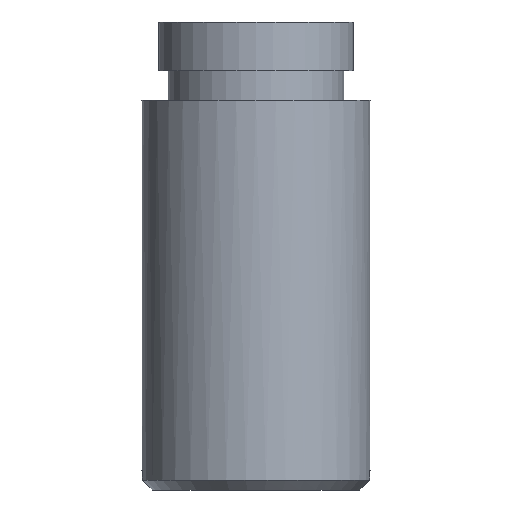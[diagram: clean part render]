
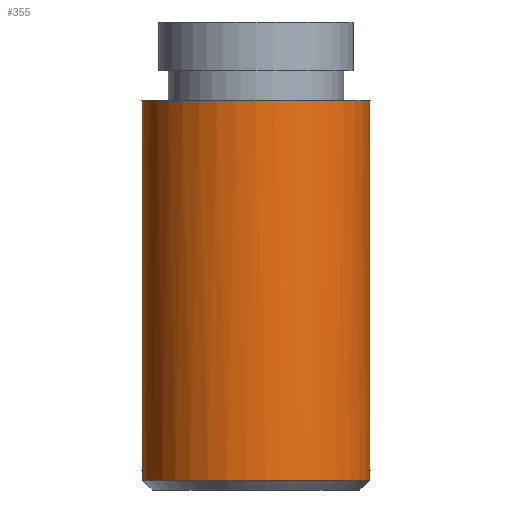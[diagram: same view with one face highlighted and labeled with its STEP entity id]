
A CAD part, left-side view. The second image highlights one B-rep face of the part: STEP entity #355.
In plain terms, the highlighted cylindrical face has radius 5.85 mm (diameter 11.7 mm), a full revolution.
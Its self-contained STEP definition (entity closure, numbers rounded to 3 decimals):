
#19=CYLINDRICAL_SURFACE('',#416,5.85);
#27=CIRCLE('',#386,5.85);
#29=CIRCLE('',#391,5.85);
#31=CIRCLE('',#394,5.85);
#34=CIRCLE('',#398,5.85);
#35=CIRCLE('',#399,5.85);
#45=CIRCLE('',#417,5.85);
#64=FACE_OUTER_BOUND('',#85,.T.);
#85=EDGE_LOOP('',(#305,#306,#307,#308,#309,#310,#311,#312,#313,#314,#315,
#316));
#100=LINE('',#536,#121);
#104=LINE('',#553,#125);
#109=LINE('',#575,#130);
#112=LINE('',#590,#133);
#118=LINE('',#640,#139);
#121=VECTOR('',#429,10.);
#125=VECTOR('',#435,10.);
#130=VECTOR('',#448,10.);
#133=VECTOR('',#453,10.);
#139=VECTOR('',#513,5.85);
#142=VERTEX_POINT('',#534);
#143=VERTEX_POINT('',#535);
#148=VERTEX_POINT('',#551);
#149=VERTEX_POINT('',#552);
#154=VERTEX_POINT('',#568);
#156=VERTEX_POINT('',#574);
#160=VERTEX_POINT('',#588);
#161=VERTEX_POINT('',#589);
#166=VERTEX_POINT('',#612);
#172=VERTEX_POINT('',#639);
#176=EDGE_CURVE('',#142,#143,#100,.T.);
#182=EDGE_CURVE('',#148,#149,#104,.T.);
#188=EDGE_CURVE('',#143,#154,#27,.T.);
#191=EDGE_CURVE('',#154,#156,#109,.T.);
#196=EDGE_CURVE('',#160,#161,#112,.T.);
#202=EDGE_CURVE('',#161,#148,#29,.T.);
#204=EDGE_CURVE('',#160,#156,#31,.T.);
#207=EDGE_CURVE('',#142,#166,#34,.T.);
#208=EDGE_CURVE('',#166,#149,#35,.T.);
#220=EDGE_CURVE('',#166,#172,#118,.T.);
#221=EDGE_CURVE('',#172,#172,#45,.T.);
#305=ORIENTED_EDGE('',*,*,#182,.T.);
#306=ORIENTED_EDGE('',*,*,#208,.F.);
#307=ORIENTED_EDGE('',*,*,#220,.T.);
#308=ORIENTED_EDGE('',*,*,#221,.T.);
#309=ORIENTED_EDGE('',*,*,#220,.F.);
#310=ORIENTED_EDGE('',*,*,#207,.F.);
#311=ORIENTED_EDGE('',*,*,#176,.T.);
#312=ORIENTED_EDGE('',*,*,#188,.T.);
#313=ORIENTED_EDGE('',*,*,#191,.T.);
#314=ORIENTED_EDGE('',*,*,#204,.F.);
#315=ORIENTED_EDGE('',*,*,#196,.T.);
#316=ORIENTED_EDGE('',*,*,#202,.T.);
#355=ADVANCED_FACE('',(#64),#19,.T.);
#386=AXIS2_PLACEMENT_3D('',#569,#441,#442);
#391=AXIS2_PLACEMENT_3D('',#605,#459,#460);
#394=AXIS2_PLACEMENT_3D('',#608,#465,#466);
#398=AXIS2_PLACEMENT_3D('',#613,#473,#474);
#399=AXIS2_PLACEMENT_3D('',#614,#475,#476);
#416=AXIS2_PLACEMENT_3D('',#638,#511,#512);
#417=AXIS2_PLACEMENT_3D('',#641,#514,#515);
#429=DIRECTION('',(0.,0.,1.));
#435=DIRECTION('',(0.,0.,-1.));
#441=DIRECTION('center_axis',(0.,0.,1.));
#442=DIRECTION('ref_axis',(-1.,0.,0.));
#448=DIRECTION('',(0.,0.,-1.));
#453=DIRECTION('',(0.,0.,1.));
#459=DIRECTION('center_axis',(0.,0.,1.));
#460=DIRECTION('ref_axis',(-1.,0.,0.));
#465=DIRECTION('center_axis',(0.,0.,-1.));
#466=DIRECTION('ref_axis',(1.,0.,0.));
#473=DIRECTION('center_axis',(0.,0.,-1.));
#474=DIRECTION('ref_axis',(1.,0.,0.));
#475=DIRECTION('center_axis',(0.,0.,-1.));
#476=DIRECTION('ref_axis',(1.,0.,0.));
#511=DIRECTION('center_axis',(0.,0.,-1.));
#512=DIRECTION('ref_axis',(-1.,0.,0.));
#513=DIRECTION('',(0.,0.,1.));
#514=DIRECTION('center_axis',(0.,0.,-1.));
#515=DIRECTION('ref_axis',(-1.,0.,0.));
#534=CARTESIAN_POINT('',(0.5,5.829,-23.5));
#535=CARTESIAN_POINT('',(0.5,5.829,-23.));
#536=CARTESIAN_POINT('',(0.5,5.829,-4.));
#551=CARTESIAN_POINT('',(0.5,-5.829,-23.));
#552=CARTESIAN_POINT('',(0.5,-5.829,-23.5));
#553=CARTESIAN_POINT('',(0.5,-5.829,-4.));
#568=CARTESIAN_POINT('',(-0.5,5.829,-23.));
#569=CARTESIAN_POINT('Origin',(0.,0.,-23.));
#574=CARTESIAN_POINT('',(-0.5,5.829,-23.5));
#575=CARTESIAN_POINT('',(-0.5,5.829,-4.));
#588=CARTESIAN_POINT('',(-0.5,-5.829,-23.5));
#589=CARTESIAN_POINT('',(-0.5,-5.829,-23.));
#590=CARTESIAN_POINT('',(-0.5,-5.829,-4.));
#605=CARTESIAN_POINT('Origin',(0.,0.,-23.));
#608=CARTESIAN_POINT('Origin',(0.,0.,-23.5));
#612=CARTESIAN_POINT('',(5.85,0.,-23.5));
#613=CARTESIAN_POINT('Origin',(0.,0.,-23.5));
#614=CARTESIAN_POINT('Origin',(0.,0.,-23.5));
#638=CARTESIAN_POINT('Origin',(0.,0.,-4.));
#639=CARTESIAN_POINT('',(5.85,0.,-4.));
#640=CARTESIAN_POINT('',(5.85,0.,-4.));
#641=CARTESIAN_POINT('Origin',(0.,0.,-4.));
